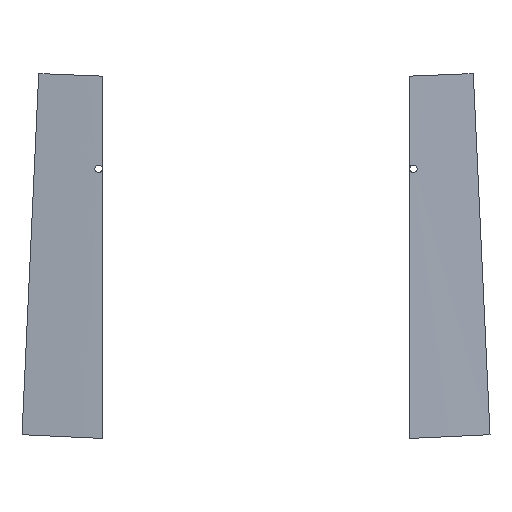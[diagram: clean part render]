
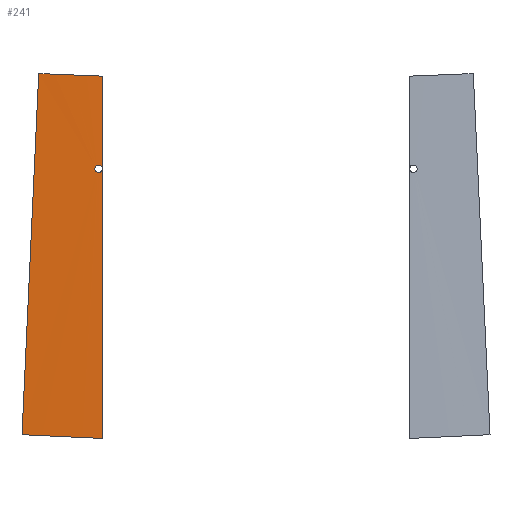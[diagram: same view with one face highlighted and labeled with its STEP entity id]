
A CAD part, top view. The second image highlights one B-rep face of the part: STEP entity #241.
In plain terms, the highlighted cylindrical face has radius 1624.24 mm (diameter 3248.47 mm), a partial arc.
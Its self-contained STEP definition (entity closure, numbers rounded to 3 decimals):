
#25=FACE_BOUND('',#44,.T.);
#29=FACE_OUTER_BOUND('',#43,.T.);
#43=EDGE_LOOP('',(#167,#168,#169,#170));
#44=EDGE_LOOP('',(#171,#172));
#61=B_SPLINE_CURVE_WITH_KNOTS('',3,(#355,#356,#357,#358,#359,#360,#361,
#362),.UNSPECIFIED.,.F.,.F.,(4,2,2,4),(-19.668,-8.521,
-4.939,0.),.UNSPECIFIED.);
#62=B_SPLINE_CURVE_WITH_KNOTS('',3,(#365,#366,#367,#368,#369,#370,#371,
#372,#373,#374,#375,#376),.UNSPECIFIED.,.F.,.F.,(4,2,2,2,2,4),(0.,0.075,
0.151,0.226,0.302,0.302),
 .UNSPECIFIED.);
#63=B_SPLINE_CURVE_WITH_KNOTS('',3,(#377,#378,#379,#380,#381,#382,#383,
#384,#385,#386,#387,#388,#389,#390,#391,#392,#393,#394,#395,#396,#397,#398,
#399,#400,#401,#402),.UNSPECIFIED.,.F.,.F.,(4,2,2,2,2,2,2,2,2,2,2,2,4),
(0.302,0.377,0.453,0.528,
0.603,0.679,0.754,0.83,
0.905,0.98,1.056,1.131,1.206),
 .UNSPECIFIED.);
#73=LINE('',#352,#87);
#87=VECTOR('',#296,10.);
#101=ELLIPSE('',#271,1626.635,1624.236);
#102=ELLIPSE('',#272,1626.237,1624.236);
#109=VERTEX_POINT('',#348);
#110=VERTEX_POINT('',#349);
#111=VERTEX_POINT('',#351);
#112=VERTEX_POINT('',#353);
#113=VERTEX_POINT('',#363);
#114=VERTEX_POINT('',#364);
#133=EDGE_CURVE('',#109,#110,#101,.T.);
#134=EDGE_CURVE('',#111,#109,#73,.T.);
#135=EDGE_CURVE('',#112,#111,#102,.T.);
#136=EDGE_CURVE('',#110,#112,#61,.T.);
#137=EDGE_CURVE('',#113,#114,#62,.T.);
#138=EDGE_CURVE('',#114,#113,#63,.T.);
#167=ORIENTED_EDGE('',*,*,#133,.F.);
#168=ORIENTED_EDGE('',*,*,#134,.F.);
#169=ORIENTED_EDGE('',*,*,#135,.F.);
#170=ORIENTED_EDGE('',*,*,#136,.F.);
#171=ORIENTED_EDGE('',*,*,#137,.F.);
#172=ORIENTED_EDGE('',*,*,#138,.F.);
#235=CYLINDRICAL_SURFACE('',#270,1624.236);
#241=ADVANCED_FACE('',(#29,#25),#235,.T.);
#270=AXIS2_PLACEMENT_3D('',#347,#292,#293);
#271=AXIS2_PLACEMENT_3D('',#350,#294,#295);
#272=AXIS2_PLACEMENT_3D('',#354,#297,#298);
#292=DIRECTION('center_axis',(0.,-1.,0.028));
#293=DIRECTION('ref_axis',(-0.102,0.028,0.994));
#294=DIRECTION('center_axis',(-0.047,-0.999,0.));
#295=DIRECTION('ref_axis',(0.856,-0.04,0.516));
#296=DIRECTION('',(0.,-1.,0.028));
#297=DIRECTION('center_axis',(0.041,0.999,0.));
#298=DIRECTION('ref_axis',(0.824,-0.034,0.565));
#347=CARTESIAN_POINT('Origin',(13600.8,11422.947,-2543.371));
#348=CARTESIAN_POINT('',(13517.938,11101.222,-911.592));
#349=CARTESIAN_POINT('',(13474.303,11103.254,-914.469));
#350=CARTESIAN_POINT('Origin',(13600.795,11097.362,-2534.243));
#351=CARTESIAN_POINT('',(13517.938,11297.088,-917.084));
#352=CARTESIAN_POINT('',(13517.938,11198.819,-914.329));
#353=CARTESIAN_POINT('',(13483.335,11298.505,-919.263));
#354=CARTESIAN_POINT('Origin',(13600.798,11293.693,-2539.747));
#355=CARTESIAN_POINT('Ctrl Pts',(13474.303,11103.254,-914.469));
#356=CARTESIAN_POINT('Ctrl Pts',(13475.801,11140.87,-915.406));
#357=CARTESIAN_POINT('Ctrl Pts',(13477.343,11176.286,-916.281));
#358=CARTESIAN_POINT('Ctrl Pts',(13479.628,11224.9,-917.472));
#359=CARTESIAN_POINT('Ctrl Pts',(13480.213,11237.079,-917.77));
#360=CARTESIAN_POINT('Ctrl Pts',(13481.635,11265.853,-918.471));
#361=CARTESIAN_POINT('Ctrl Pts',(13482.467,11282.07,-918.865));
#362=CARTESIAN_POINT('Ctrl Pts',(13483.335,11298.505,-919.263));
#363=CARTESIAN_POINT('',(13513.723,11247.04,-915.902));
#364=CARTESIAN_POINT('',(13515.723,11245.04,-915.739));
#365=CARTESIAN_POINT('Ctrl Pts',(13513.723,11247.04,-915.902));
#366=CARTESIAN_POINT('Ctrl Pts',(13513.723,11246.789,-915.895));
#367=CARTESIAN_POINT('Ctrl Pts',(13513.773,11246.521,-915.884));
#368=CARTESIAN_POINT('Ctrl Pts',(13513.977,11246.028,-915.86));
#369=CARTESIAN_POINT('Ctrl Pts',(13514.131,11245.804,-915.845));
#370=CARTESIAN_POINT('Ctrl Pts',(13514.486,11245.449,-915.816));
#371=CARTESIAN_POINT('Ctrl Pts',(13514.711,11245.295,-915.8));
#372=CARTESIAN_POINT('Ctrl Pts',(13515.204,11245.09,-915.768));
#373=CARTESIAN_POINT('Ctrl Pts',(13515.471,11245.04,-915.753));
#374=CARTESIAN_POINT('Ctrl Pts',(13515.723,11245.04,-915.739));
#375=CARTESIAN_POINT('Ctrl Pts',(13515.723,11245.04,-915.739));
#376=CARTESIAN_POINT('Ctrl Pts',(13515.723,11245.04,-915.739));
#377=CARTESIAN_POINT('Ctrl Pts',(13515.723,11245.04,-915.739));
#378=CARTESIAN_POINT('Ctrl Pts',(13515.974,11245.04,-915.726));
#379=CARTESIAN_POINT('Ctrl Pts',(13516.242,11245.09,-915.714));
#380=CARTESIAN_POINT('Ctrl Pts',(13516.734,11245.294,-915.694));
#381=CARTESIAN_POINT('Ctrl Pts',(13516.96,11245.448,-915.686));
#382=CARTESIAN_POINT('Ctrl Pts',(13517.315,11245.804,-915.678));
#383=CARTESIAN_POINT('Ctrl Pts',(13517.469,11246.029,-915.676));
#384=CARTESIAN_POINT('Ctrl Pts',(13517.673,11246.521,-915.68));
#385=CARTESIAN_POINT('Ctrl Pts',(13517.723,11246.789,-915.685));
#386=CARTESIAN_POINT('Ctrl Pts',(13517.723,11247.291,-915.699));
#387=CARTESIAN_POINT('Ctrl Pts',(13517.673,11247.559,-915.709));
#388=CARTESIAN_POINT('Ctrl Pts',(13517.468,11248.052,-915.733));
#389=CARTESIAN_POINT('Ctrl Pts',(13517.314,11248.277,-915.747));
#390=CARTESIAN_POINT('Ctrl Pts',(13516.959,11248.632,-915.776));
#391=CARTESIAN_POINT('Ctrl Pts',(13516.735,11248.786,-915.792));
#392=CARTESIAN_POINT('Ctrl Pts',(13516.242,11248.99,-915.823));
#393=CARTESIAN_POINT('Ctrl Pts',(13515.974,11249.04,-915.838));
#394=CARTESIAN_POINT('Ctrl Pts',(13515.472,11249.04,-915.865));
#395=CARTESIAN_POINT('Ctrl Pts',(13515.204,11248.99,-915.877));
#396=CARTESIAN_POINT('Ctrl Pts',(13514.711,11248.786,-915.898));
#397=CARTESIAN_POINT('Ctrl Pts',(13514.486,11248.632,-915.906));
#398=CARTESIAN_POINT('Ctrl Pts',(13514.131,11248.277,-915.914));
#399=CARTESIAN_POINT('Ctrl Pts',(13513.977,11248.052,-915.916));
#400=CARTESIAN_POINT('Ctrl Pts',(13513.773,11247.559,-915.914));
#401=CARTESIAN_POINT('Ctrl Pts',(13513.723,11247.291,-915.909));
#402=CARTESIAN_POINT('Ctrl Pts',(13513.723,11247.04,-915.902));
